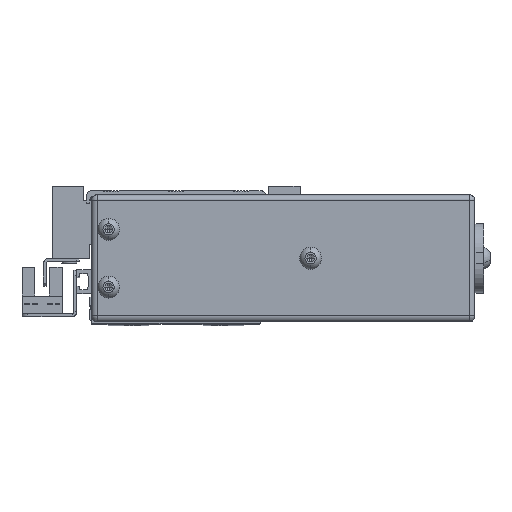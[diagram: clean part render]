
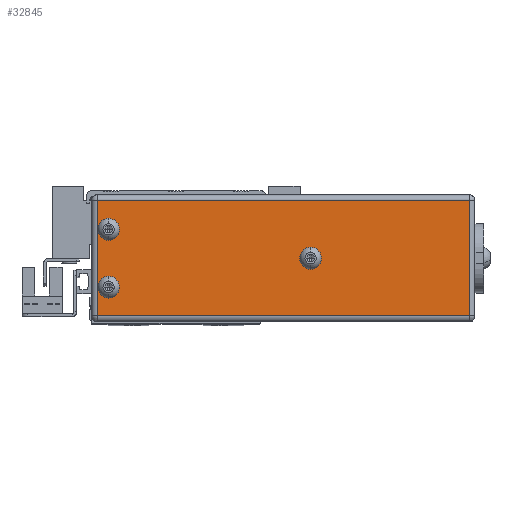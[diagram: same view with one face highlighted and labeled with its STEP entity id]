
A CAD part, top view. The second image highlights one B-rep face of the part: STEP entity #32845.
In plain terms, the highlighted planar face has unit normal (0, 0, 1).
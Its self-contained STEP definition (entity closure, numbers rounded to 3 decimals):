
#258 = ORIENTED_EDGE ( 'NONE', *, *, #22191, .F. ) ;
#676 = ORIENTED_EDGE ( 'NONE', *, *, #61580, .T. ) ;
#4437 = VERTEX_POINT ( 'NONE', #18467 ) ;
#6414 = ORIENTED_EDGE ( 'NONE', *, *, #29057, .T. ) ;
#7541 = AXIS2_PLACEMENT_3D ( 'NONE', #165578, #152249, #137122 ) ;
#8911 = AXIS2_PLACEMENT_3D ( 'NONE', #132803, #62404, #75058 ) ;
#11296 = FACE_BOUND ( 'NONE', #171657, .T. ) ;
#12049 = LINE ( 'NONE', #89256, #176015 ) ;
#12368 = AXIS2_PLACEMENT_3D ( 'NONE', #77392, #48534, #118995 ) ;
#16439 = VERTEX_POINT ( 'NONE', #116255 ) ;
#18141 = ORIENTED_EDGE ( 'NONE', *, *, #68889, .F. ) ;
#18467 = CARTESIAN_POINT ( 'NONE',  ( -114.161, -9.079, 163. ) ) ;
#22191 = EDGE_CURVE ( 'NONE', #86923, #86821, #125670, .T. ) ;
#22456 = CIRCLE ( 'NONE', #46381, 2.25 ) ;
#28591 = EDGE_LOOP ( 'NONE', ( #85654, #18141 ) ) ;
#29057 = EDGE_CURVE ( 'NONE', #137125, #4437, #45445, .T. ) ;
#30782 = LINE ( 'NONE', #44695, #136298 ) ;
#32538 = DIRECTION ( 'NONE',  ( 0., 0., 1. ) ) ;
#32602 = VERTEX_POINT ( 'NONE', #54043 ) ;
#32845 = ADVANCED_FACE ( 'NONE', ( #11296, #166624, #153605, #73823 ), #131644, .F. ) ;
#40333 = CARTESIAN_POINT ( 'NONE',  ( -37.911, 10.921, 163. ) ) ;
#41193 = CARTESIAN_POINT ( 'NONE',  ( -116.161, -9.079, 163. ) ) ;
#43856 = DIRECTION ( 'NONE',  ( 0., 0., 1. ) ) ;
#44241 = EDGE_CURVE ( 'NONE', #16439, #159485, #12049, .T. ) ;
#44695 = CARTESIAN_POINT ( 'NONE',  ( -116.161, 30.921, 163. ) ) ;
#45445 = LINE ( 'NONE', #153953, #80006 ) ;
#46381 = AXIS2_PLACEMENT_3D ( 'NONE', #147500, #64913, #161454 ) ;
#48534 = DIRECTION ( 'NONE',  ( 0., 0., 1. ) ) ;
#51965 = CARTESIAN_POINT ( 'NONE',  ( -107.911, 0.921, 163. ) ) ;
#54043 = CARTESIAN_POINT ( 'NONE',  ( -112.411, 20.921, 163. ) ) ;
#54394 = DIRECTION ( 'NONE',  ( 1., 0., 0. ) ) ;
#56469 = CARTESIAN_POINT ( 'NONE',  ( -110.161, 20.921, 163. ) ) ;
#56911 = CIRCLE ( 'NONE', #131460, 2.25 ) ;
#58963 = DIRECTION ( 'NONE',  ( 1., 0., 0. ) ) ;
#59722 = CARTESIAN_POINT ( 'NONE',  ( -107.911, 20.921, 163. ) ) ;
#61560 = ORIENTED_EDGE ( 'NONE', *, *, #44241, .T. ) ;
#61580 = EDGE_CURVE ( 'NONE', #4437, #16439, #101944, .T. ) ;
#62404 = DIRECTION ( 'NONE',  ( 0., 0., -1. ) ) ;
#64855 = CARTESIAN_POINT ( 'NONE',  ( -112.411, 0.921, 163. ) ) ;
#64913 = DIRECTION ( 'NONE',  ( 0., 0., 1. ) ) ;
#68889 = EDGE_CURVE ( 'NONE', #97466, #89261, #157452, .T. ) ;
#69761 = EDGE_CURVE ( 'NONE', #89261, #97466, #70430, .T. ) ;
#70430 = CIRCLE ( 'NONE', #104907, 2.25 ) ;
#73823 = FACE_OUTER_BOUND ( 'NONE', #177712, .T. ) ;
#75058 = DIRECTION ( 'NONE',  ( -1., 0., 0. ) ) ;
#75906 = EDGE_CURVE ( 'NONE', #86821, #86923, #22456, .T. ) ;
#77392 = CARTESIAN_POINT ( 'NONE',  ( -110.161, 0.921, 163. ) ) ;
#80006 = VECTOR ( 'NONE', #155172, 1000. ) ;
#82549 = VECTOR ( 'NONE', #54394, 1000. ) ;
#82907 = VERTEX_POINT ( 'NONE', #59722 ) ;
#85654 = ORIENTED_EDGE ( 'NONE', *, *, #69761, .F. ) ;
#86821 = VERTEX_POINT ( 'NONE', #40333 ) ;
#86923 = VERTEX_POINT ( 'NONE', #165699 ) ;
#89256 = CARTESIAN_POINT ( 'NONE',  ( 14.839, -11.079, 163. ) ) ;
#89261 = VERTEX_POINT ( 'NONE', #51965 ) ;
#97466 = VERTEX_POINT ( 'NONE', #64855 ) ;
#101944 = LINE ( 'NONE', #41193, #82549 ) ;
#104907 = AXIS2_PLACEMENT_3D ( 'NONE', #113824, #32538, #58963 ) ;
#106798 = CARTESIAN_POINT ( 'NONE',  ( -114.161, 30.921, 163. ) ) ;
#108407 = EDGE_CURVE ( 'NONE', #82907, #32602, #166183, .T. ) ;
#113824 = CARTESIAN_POINT ( 'NONE',  ( -110.161, 0.921, 163. ) ) ;
#114037 = ORIENTED_EDGE ( 'NONE', *, *, #75906, .F. ) ;
#115792 = DIRECTION ( 'NONE',  ( 0., 1., 0. ) ) ;
#116255 = CARTESIAN_POINT ( 'NONE',  ( 14.839, -9.079, 163. ) ) ;
#118315 = DIRECTION ( 'NONE',  ( 1., 0., 0. ) ) ;
#118995 = DIRECTION ( 'NONE',  ( 1., 0., 0. ) ) ;
#121693 = EDGE_CURVE ( 'NONE', #159485, #137125, #30782, .T. ) ;
#123987 = EDGE_LOOP ( 'NONE', ( #173800, #171606 ) ) ;
#124629 = DIRECTION ( 'NONE',  ( 1., 0., 0. ) ) ;
#125670 = CIRCLE ( 'NONE', #7541, 2.25 ) ;
#126064 = DIRECTION ( 'NONE',  ( -1., 0., 0. ) ) ;
#131460 = AXIS2_PLACEMENT_3D ( 'NONE', #144828, #159393, #118315 ) ;
#131644 = PLANE ( 'NONE',  #8911 ) ;
#132803 = CARTESIAN_POINT ( 'NONE',  ( -116.161, -11.079, 163. ) ) ;
#136298 = VECTOR ( 'NONE', #126064, 1000. ) ;
#137122 = DIRECTION ( 'NONE',  ( 1., 0., 0. ) ) ;
#137125 = VERTEX_POINT ( 'NONE', #106798 ) ;
#144828 = CARTESIAN_POINT ( 'NONE',  ( -110.161, 20.921, 163. ) ) ;
#147500 = CARTESIAN_POINT ( 'NONE',  ( -40.161, 10.921, 163. ) ) ;
#149128 = EDGE_CURVE ( 'NONE', #32602, #82907, #56911, .T. ) ;
#152249 = DIRECTION ( 'NONE',  ( 0., 0., 1. ) ) ;
#152309 = CARTESIAN_POINT ( 'NONE',  ( 14.839, 30.921, 163. ) ) ;
#153605 = FACE_BOUND ( 'NONE', #123987, .T. ) ;
#153953 = CARTESIAN_POINT ( 'NONE',  ( -114.161, -11.079, 163. ) ) ;
#155172 = DIRECTION ( 'NONE',  ( 0., -1., 0. ) ) ;
#157452 = CIRCLE ( 'NONE', #12368, 2.25 ) ;
#159393 = DIRECTION ( 'NONE',  ( 0., 0., 1. ) ) ;
#159485 = VERTEX_POINT ( 'NONE', #152309 ) ;
#161454 = DIRECTION ( 'NONE',  ( 1., 0., 0. ) ) ;
#165578 = CARTESIAN_POINT ( 'NONE',  ( -40.161, 10.921, 163. ) ) ;
#165699 = CARTESIAN_POINT ( 'NONE',  ( -42.411, 10.921, 163. ) ) ;
#166183 = CIRCLE ( 'NONE', #172732, 2.25 ) ;
#166624 = FACE_BOUND ( 'NONE', #28591, .T. ) ;
#167569 = ORIENTED_EDGE ( 'NONE', *, *, #121693, .T. ) ;
#171606 = ORIENTED_EDGE ( 'NONE', *, *, #149128, .F. ) ;
#171657 = EDGE_LOOP ( 'NONE', ( #114037, #258 ) ) ;
#172732 = AXIS2_PLACEMENT_3D ( 'NONE', #56469, #43856, #124629 ) ;
#173800 = ORIENTED_EDGE ( 'NONE', *, *, #108407, .F. ) ;
#176015 = VECTOR ( 'NONE', #115792, 1000. ) ;
#177712 = EDGE_LOOP ( 'NONE', ( #61560, #167569, #6414, #676 ) ) ;
